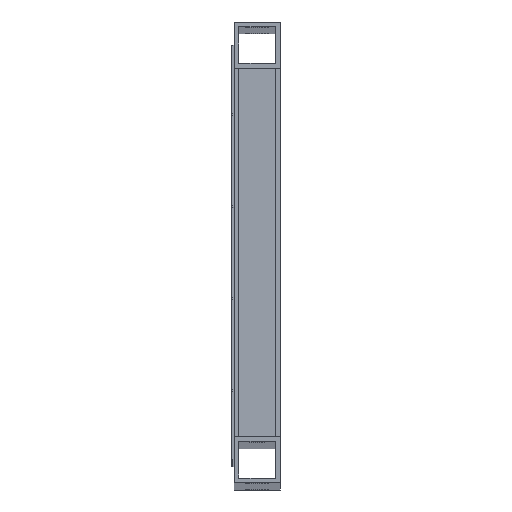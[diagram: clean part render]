
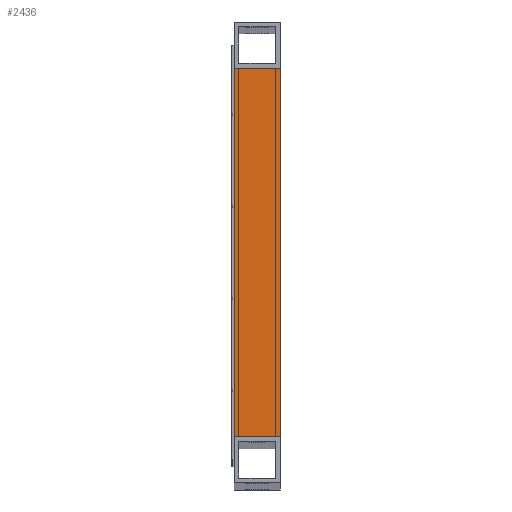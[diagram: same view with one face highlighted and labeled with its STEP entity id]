
A CAD part, top view. The second image highlights one B-rep face of the part: STEP entity #2436.
In plain terms, the highlighted planar face has unit normal (0, 0, 1) as drawn and (0, -1, 0) by its records, which use the part's own axes.
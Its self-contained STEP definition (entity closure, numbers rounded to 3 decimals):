
#466 = CARTESIAN_POINT ( 'NONE',  ( -10., -10., 160. ) ) ;
#597 = CARTESIAN_POINT ( 'NONE',  ( -10., -10., 0. ) ) ;
#708 = AXIS2_PLACEMENT_3D ( 'NONE', #466, #5659, #3067 ) ;
#808 = CARTESIAN_POINT ( 'NONE',  ( 10., -10., 160. ) ) ;
#1196 = EDGE_CURVE ( 'NONE', #6661, #4112, #7293, .T. ) ;
#1644 = LINE ( 'NONE', #808, #3568 ) ;
#2208 = ORIENTED_EDGE ( 'NONE', *, *, #7382, .F. ) ;
#2431 = ORIENTED_EDGE ( 'NONE', *, *, #2884, .F. ) ;
#2436 = ADVANCED_FACE ( 'NONE', ( #4369 ), #6495, .F. ) ;
#2644 = VERTEX_POINT ( 'NONE', #3325 ) ;
#2853 = LINE ( 'NONE', #8185, #3272 ) ;
#2884 = EDGE_CURVE ( 'NONE', #4299, #2644, #3059, .T. ) ;
#3059 = LINE ( 'NONE', #5694, #5265 ) ;
#3067 = DIRECTION ( 'NONE',  ( 0., 0., 1. ) ) ;
#3269 = ORIENTED_EDGE ( 'NONE', *, *, #6860, .T. ) ;
#3272 = VECTOR ( 'NONE', #7458, 1000. ) ;
#3325 = CARTESIAN_POINT ( 'NONE',  ( 10., -10., 160. ) ) ;
#3568 = VECTOR ( 'NONE', #7445, 1000. ) ;
#3795 = DIRECTION ( 'NONE',  ( 1., 0., 0. ) ) ;
#4112 = VERTEX_POINT ( 'NONE', #4767 ) ;
#4299 = VERTEX_POINT ( 'NONE', #7112 ) ;
#4369 = FACE_OUTER_BOUND ( 'NONE', #4509, .T. ) ;
#4509 = EDGE_LOOP ( 'NONE', ( #4716, #2208, #2431, #3269 ) ) ;
#4576 = DIRECTION ( 'NONE',  ( 1., 0., 0. ) ) ;
#4716 = ORIENTED_EDGE ( 'NONE', *, *, #1196, .T. ) ;
#4767 = CARTESIAN_POINT ( 'NONE',  ( 10., -10., 0. ) ) ;
#5265 = VECTOR ( 'NONE', #3795, 1000. ) ;
#5659 = DIRECTION ( 'NONE',  ( 0., 1., 0. ) ) ;
#5694 = CARTESIAN_POINT ( 'NONE',  ( -10., -10., 160. ) ) ;
#6495 = PLANE ( 'NONE',  #708 ) ;
#6661 = VERTEX_POINT ( 'NONE', #7100 ) ;
#6860 = EDGE_CURVE ( 'NONE', #4299, #6661, #2853, .T. ) ;
#6863 = VECTOR ( 'NONE', #4576, 1000. ) ;
#7100 = CARTESIAN_POINT ( 'NONE',  ( -10., -10., 0. ) ) ;
#7112 = CARTESIAN_POINT ( 'NONE',  ( -10., -10., 160. ) ) ;
#7293 = LINE ( 'NONE', #597, #6863 ) ;
#7382 = EDGE_CURVE ( 'NONE', #2644, #4112, #1644, .T. ) ;
#7445 = DIRECTION ( 'NONE',  ( 0., 0., -1. ) ) ;
#7458 = DIRECTION ( 'NONE',  ( 0., 0., -1. ) ) ;
#8185 = CARTESIAN_POINT ( 'NONE',  ( -10., -10., 160. ) ) ;
